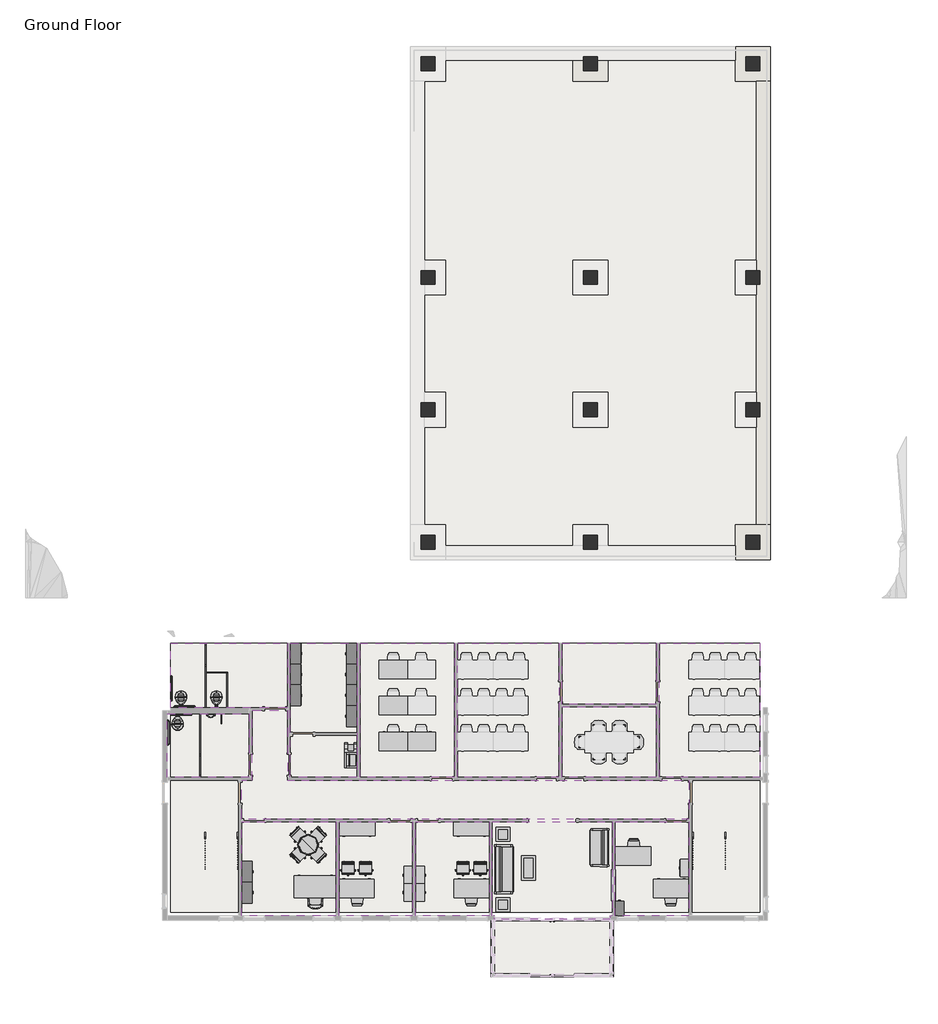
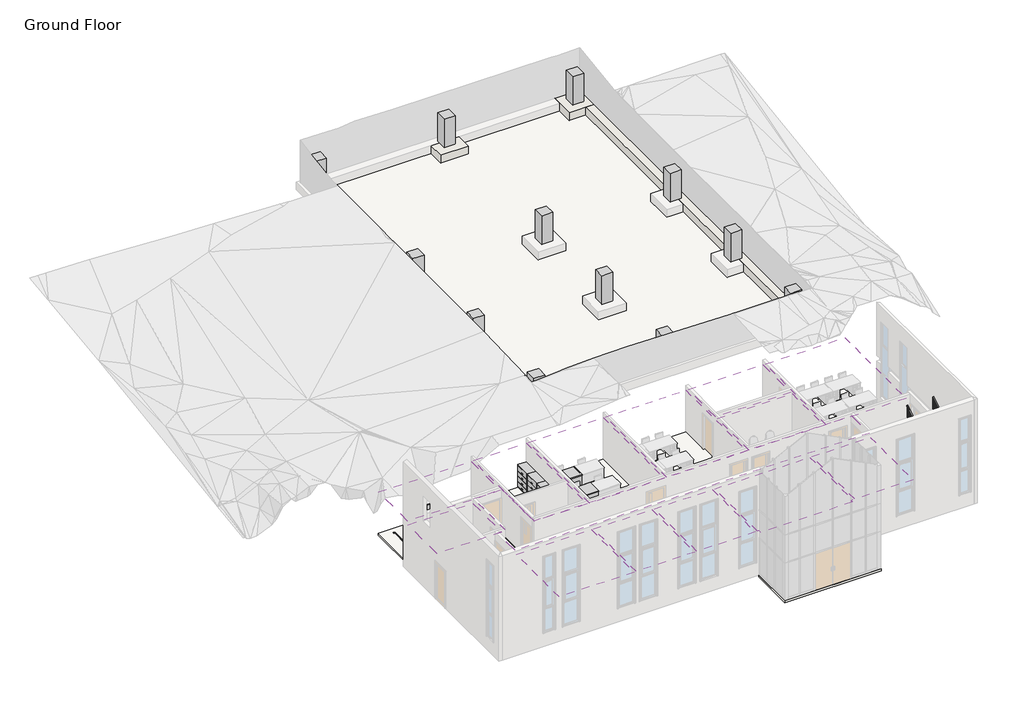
# One storey, part 4 of 5: 45 furniture elements, 16 coverings, 12 columns, 7 proxies, 4 flow terminals, 4 railings, 4 walls, 3 slabs.
"""IFC4 building model written with IfcOpenShell, lengths in millimetres."""

from ifc_helpers import new_model, si_unit, frame, origin, place, context, project, spatial, polyline, outline, extrude, faceted_brep, transform, mapped, element, save
from components import copier_floor_copier_floor_a40bf9c1, grab_bar_3d_grab_bar_3d_00f4341b, grab_bar_3d_grab_bar_3d_a3ed3e83, proxy_7c43ef90, toilet_stall_accessible_side2_3d_80249481, proxy_be33b337, urinal_screen_3d_0714b669, concrete_square_column_24_x_24_c4942f5a, flow_terminal_35d0ae41, flow_terminal_6a37c47e, urinal_wall_3d_urinal_wall_3d_7ec34c28, furniture_4ebe9c9a, furniture_5292397e, furniture_e55d9147, furniture_7033c86c, furniture_d92d6fc3, chair_desk_chair_desk_ccc35c8f, chair_desk_chair_desk_1723cfae, chair_executive_chair_executive_8d69e98c, chair_task_chair_task_b7f3823b, chair_task_chair_task_a9f69f28, furniture_894c625b, furniture_2f1724fb, desk_8768a1f0, furniture_da8d8c81, furniture_072f6425, furniture_2fc54265, furniture_7c795298, furniture_fb1f61f5, furniture_b5c51a22, furniture_feca7e9b, furniture_c80d6d9c, handrail_rectangular_0411ff3c, handrail_rectangular_9e17ef01, handrail_rectangular_dbc5561f, handrail_rectangular_fff20364

model = new_model("IFC4")

# Units and contexts
model_context = context("Model", 3, world=origin())
ifc_project = project(units=[si_unit("LENGTHUNIT", "METRE", prefix="MILLI")], contexts=[model_context])

# Site, building, storey
site = spatial("IfcSite", under=ifc_project)
building = spatial("IfcBuilding", under=site)
storey = spatial("IfcBuildingStorey", under=building, Name="Ground Floor", Elevation=39624.0)

# Proxies
placement = place(None, origin())
copier_floor_copier_floor_shape = copier_floor_copier_floor_a40bf9c1(model_context)
element("IfcBuildingElementProxy", 1, Name="Copier-Floor : Copier-Floor", ObjectType="Copier-Floor : Copier-Floor", at=placement, inside=storey, context=model_context, shape_type="MappedRepresentation", body=[
    mapped(copier_floor_copier_floor_shape, transform((-17642.7731804, -9059.1816076, 39624.0), x_axis=(0.0, -1.0, 0.0), y_axis=(1.0, 0.0, 0.0), z_axis=(0.0, 0.0, 1.0))),
])
grab_bar_3d_grab_bar_3d_shape = grab_bar_3d_grab_bar_3d_00f4341b(model_context)
element("IfcBuildingElementProxy", 2, Name="Grab Bar-3D : Grab Bar-3D", ObjectType="Grab Bar-3D : Grab Bar-3D", at=placement, inside=storey, context=model_context, shape_type="MappedRepresentation", body=[
    mapped(grab_bar_3d_grab_bar_3d_shape, transform((-25642.9167336, -7007.3019844, 39624.0), x_axis=(-1.0, 0.0, 0.0), y_axis=(0.0, -1.0, 0.0), z_axis=(0.0, 0.0, 1.0))),
])
grab_bar_3d_grab_bar_3d_2_shape = grab_bar_3d_grab_bar_3d_a3ed3e83(model_context)
element("IfcBuildingElementProxy", 3, Name="Grab Bar-3D : Grab Bar-3D", ObjectType="Grab Bar-3D : Grab Bar-3D", at=placement, inside=storey, context=model_context, shape_type="MappedRepresentation", body=[
    mapped(grab_bar_3d_grab_bar_3d_2_shape, transform((-25493.6917336, -6746.9519844, 39624.0), x_axis=(-1.0, 0.0, 0.0), y_axis=(0.0, -1.0, 0.0), z_axis=(0.0, 0.0, 1.0))),
])
proxy_shape = proxy_7c43ef90(model_context)
element("IfcBuildingElementProxy", 4, Name="Toilet Stall-3D : 36\" x 60\" Clear", ObjectType="Toilet Stall-3D : 36\" x 60\" Clear", at=placement, inside=storey, context=model_context, shape_type="MappedRepresentation", body=[
    mapped(proxy_shape, transform((-23082.1885798, -6877.1269844, 39624.0), x_axis=(-1.0, 0.0, 0.0), y_axis=(0.0, -1.0, 0.0), z_axis=(0.0, 0.0, 1.0))),
])
toilet_stall_accessible_side2_3d_shape = toilet_stall_accessible_side2_3d_80249481(model_context)
element("IfcBuildingElementProxy", 5, Name="Toilet Stall-Accessible-Side2-3D : 60\" x  110\"", ObjectType="Toilet Stall-Accessible-Side2-3D : 60\" x  110\"", at=placement, inside=storey, context=model_context, shape_type="MappedRepresentation", body=[
    mapped(toilet_stall_accessible_side2_3d_shape, transform((-24874.4760798, -6877.1269844, 39624.0), x_axis=(-1.0, 0.0, 0.0), y_axis=(0.0, -1.0, 0.0), z_axis=(0.0, 0.0, 1.0))),
])
proxy_2_shape = proxy_be33b337(model_context)
element("IfcBuildingElementProxy", 6, Name="Toilet Stall-Accessible-Side2-3D : 60\" x 111\" Clear", ObjectType="Toilet Stall-Accessible-Side2-3D : 60\" x 111\" Clear", at=placement, inside=storey, context=model_context, shape_type="MappedRepresentation", body=[
    mapped(proxy_2_shape, transform((-24631.5885798, -6877.1269844, 39624.0), x_axis=(-1.0, 0.0, 0.0), y_axis=(0.0, -1.0, 0.0), z_axis=(0.0, 0.0, 1.0))),
])
urinal_screen_3d_shape = urinal_screen_3d_0714b669(model_context)
element("IfcBuildingElementProxy", 7, Name="Urinal Screen-3D : 36\" O.C.", ObjectType="Urinal Screen-3D : 36\" O.C.", at=placement, inside=storey, context=model_context, shape_type="MappedRepresentation", body=[
    mapped(urinal_screen_3d_shape, transform((-23272.7792336, -6877.1269844, 39624.0), x_axis=(-1.0, 0.0, 0.0), y_axis=(0.0, -1.0, 0.0), z_axis=(0.0, 0.0, 1.0))),
])

# Columns
element("IfcColumn", 8, ObjectType="Concrete-Square-Column : 24 x 24", at=placement, inside=storey, context=model_context, shape_type="SweptSolid", body=[
    extrude(outline(polyline([(-13911.2917336, 21726.4480156), (-13911.2917336, 21116.8480156), (-14520.8917336, 21116.8480156), (-14520.8917336, 21726.4480156), (-13911.2917336, 21726.4480156)])), frame((0.0, 0.0, 40690.8), z_axis=(0.0, 0.0, 1.0), x_axis=(1.0, 0.0, 0.0)), (0.0, 0.0, 1.0), 1676.4),
])
element("IfcColumn", 9, ObjectType="Concrete-Square-Column : 24 x 24", at=placement, inside=storey, context=model_context, shape_type="SweptSolid", body=[
    extrude(outline(polyline([(-6799.2917336, 21726.4480156), (-6799.2917336, 21116.8480156), (-7408.8917336, 21116.8480156), (-7408.8917336, 21726.4480156), (-6799.2917336, 21726.4480156)])), frame((0.0, 0.0, 40690.8), z_axis=(0.0, 0.0, 1.0), x_axis=(1.0, 0.0, 0.0)), (0.0, 0.0, 1.0), 1676.4),
])
element("IfcColumn", 10, ObjectType="Concrete-Square-Column : 24 x 24", at=placement, inside=storey, context=model_context, shape_type="SweptSolid", body=[
    extrude(outline(polyline([(312.7082664, 21726.4480156), (312.7082664, 21116.8480156), (-296.8917336, 21116.8480156), (-296.8917336, 21726.4480156), (312.7082664, 21726.4480156)])), frame((0.0, 0.0, 40690.8), z_axis=(0.0, 0.0, 1.0), x_axis=(1.0, 0.0, 0.0)), (0.0, 0.0, 1.0), 1676.4),
])
element("IfcColumn", 11, ObjectType="Concrete-Square-Column : 24 x 24", at=placement, inside=storey, context=model_context, shape_type="SweptSolid", body=[
    extrude(outline(polyline([(-13911.2917336, 12379.2480156), (-13911.2917336, 11769.6480156), (-14520.8917336, 11769.6480156), (-14520.8917336, 12379.2480156), (-13911.2917336, 12379.2480156)])), frame((0.0, 0.0, 40690.8), z_axis=(0.0, 0.0, 1.0), x_axis=(1.0, 0.0, 0.0)), (0.0, 0.0, 1.0), 1676.4),
])
element("IfcColumn", 12, ObjectType="Concrete-Square-Column : 24 x 24", at=placement, inside=storey, context=model_context, shape_type="SweptSolid", body=[
    extrude(outline(polyline([(312.7082664, 12379.2480156), (312.7082664, 11769.6480156), (-296.8917336, 11769.6480156), (-296.8917336, 12379.2480156), (312.7082664, 12379.2480156)])), frame((0.0, 0.0, 40690.8), z_axis=(0.0, 0.0, 1.0), x_axis=(1.0, 0.0, 0.0)), (0.0, 0.0, 1.0), 1676.4),
])
element("IfcColumn", 13, ObjectType="Concrete-Square-Column : 24 x 24", at=placement, inside=storey, context=model_context, shape_type="SweptSolid", body=[
    extrude(outline(polyline([(-13911.2917336, 6588.0480156), (-13911.2917336, 5978.4480156), (-14520.8917336, 5978.4480156), (-14520.8917336, 6588.0480156), (-13911.2917336, 6588.0480156)])), frame((0.0, 0.0, 40690.8), z_axis=(0.0, 0.0, 1.0), x_axis=(1.0, 0.0, 0.0)), (0.0, 0.0, 1.0), 1676.4),
])
element("IfcColumn", 14, ObjectType="Concrete-Square-Column : 24 x 24", at=placement, inside=storey, context=model_context, shape_type="SweptSolid", body=[
    extrude(outline(polyline([(312.7082664, 6588.0480156), (312.7082664, 5978.4480156), (-296.8917336, 5978.4480156), (-296.8917336, 6588.0480156), (312.7082664, 6588.0480156)])), frame((0.0, 0.0, 40690.8), z_axis=(0.0, 0.0, 1.0), x_axis=(1.0, 0.0, 0.0)), (0.0, 0.0, 1.0), 1676.4),
])
element("IfcColumn", 15, ObjectType="Concrete-Square-Column : 24 x 24", at=placement, inside=storey, context=model_context, shape_type="SweptSolid", body=[
    extrude(outline(polyline([(-13911.2917336, 796.8480156), (-13911.2917336, 187.2480156), (-14520.8917336, 187.2480156), (-14520.8917336, 796.8480156), (-13911.2917336, 796.8480156)])), frame((0.0, 0.0, 40690.8), z_axis=(0.0, 0.0, 1.0), x_axis=(1.0, 0.0, 0.0)), (0.0, 0.0, 1.0), 1676.4),
])
element("IfcColumn", 16, ObjectType="Concrete-Square-Column : 24 x 24", at=placement, inside=storey, context=model_context, shape_type="SweptSolid", body=[
    extrude(outline(polyline([(-6799.2917336, 796.8480156), (-6799.2917336, 187.2480156), (-7408.8917336, 187.2480156), (-7408.8917336, 796.8480156), (-6799.2917336, 796.8480156)])), frame((0.0, 0.0, 40690.8), z_axis=(0.0, 0.0, 1.0), x_axis=(1.0, 0.0, 0.0)), (0.0, 0.0, 1.0), 1676.4),
])
element("IfcColumn", 17, ObjectType="Concrete-Square-Column : 24 x 24", at=placement, inside=storey, context=model_context, shape_type="SweptSolid", body=[
    extrude(outline(polyline([(312.7082664, 796.8480156), (312.7082664, 187.2480156), (-296.8917336, 187.2480156), (-296.8917336, 796.8480156), (312.7082664, 796.8480156)])), frame((0.0, 0.0, 40690.8), z_axis=(0.0, 0.0, 1.0), x_axis=(1.0, 0.0, 0.0)), (0.0, 0.0, 1.0), 1676.4),
])
concrete_square_column_24_x_24_shape = concrete_square_column_24_x_24_c4942f5a(model_context)
element("IfcColumn", 18, ObjectType="Concrete-Square-Column : 24 x 24", at=placement, inside=storey, context=model_context, shape_type="MappedRepresentation", body=[
    mapped(concrete_square_column_24_x_24_shape, transform((-7104.0917336, 12074.4480156, 0.0), x_axis=(1.0, 0.0, 0.0), y_axis=(0.0, 1.0, 0.0), z_axis=(0.0, 0.0, 1.0))),
])
element("IfcColumn", 19, ObjectType="Concrete-Square-Column : 24 x 24", at=placement, inside=storey, context=model_context, shape_type="MappedRepresentation", body=[
    mapped(concrete_square_column_24_x_24_shape, transform((-7104.0917336, 6283.2480156, 0.0), x_axis=(1.0, 0.0, 0.0), y_axis=(0.0, 1.0, 0.0), z_axis=(0.0, 0.0, 1.0))),
])

# Coverings
element("IfcCovering", 20, ObjectType="2' x 2' ACT System", at=placement, inside=storey, context=model_context, shape_type="SweptSolid", body=[
    extrude(outline(polyline([(-14763.7792336, -11750.7519844), (-11534.8042336, -11750.7519844), (-11534.8042336, -15862.3769844), (-14763.7792336, -15862.3769844), (-14763.7792336, -11750.7519844)])), frame((0.0, 0.0, 42062.4), z_axis=(0.0, 0.0, 1.0), x_axis=(1.0, 0.0, 0.0)), (0.0, 0.0, 1.0), 57.15),
])
element("IfcCovering", 21, ObjectType="2' x 2' ACT System", at=placement, inside=storey, context=model_context, shape_type="SweptSolid", body=[
    extrude(outline(polyline([(-20250.1792336, -9798.1269844), (-20250.1792336, -3927.5519844), (-17326.0042336, -3927.5519844), (-17326.0042336, -9798.1269844), (-20250.1792336, -9798.1269844)])), frame((0.0, 0.0, 42062.4), z_axis=(0.0, 0.0, 1.0), x_axis=(1.0, 0.0, 0.0)), (0.0, 0.0, 1.0), 57.15),
])
element("IfcCovering", 22, ObjectType="2' x 2' ACT System", at=placement, inside=storey, context=model_context, shape_type="SweptSolid", body=[
    extrude(outline(polyline([(-17202.1792336, -9798.1269844), (-17202.1792336, -3927.5519844), (-13058.8042336, -3927.5519844), (-13058.8042336, -9798.1269844), (-17202.1792336, -9798.1269844)])), frame((0.0, 0.0, 42062.4), z_axis=(0.0, 0.0, 1.0), x_axis=(1.0, 0.0, 0.0)), (0.0, 0.0, 1.0), 57.15),
])
element("IfcCovering", 23, ObjectType="2' x 2' ACT System", at=placement, inside=storey, context=model_context, shape_type="SweptSolid", body=[
    extrude(outline(polyline([(-12934.9792336, -9798.1269844), (-12934.9792336, -3927.5519844), (-8486.8042336, -3927.5519844), (-8486.8042336, -9798.1269844), (-12934.9792336, -9798.1269844)])), frame((0.0, 0.0, 42062.4), z_axis=(0.0, 0.0, 1.0), x_axis=(1.0, 0.0, 0.0)), (0.0, 0.0, 1.0), 57.15),
])
element("IfcCovering", 24, ObjectType="2' x 2' ACT System", at=placement, inside=storey, context=model_context, shape_type="SweptSolid", body=[
    extrude(outline(polyline([(-8362.9792336, -6597.7269844), (-8362.9792336, -3927.5519844), (-4219.6042336, -3927.5519844), (-4219.6042336, -6597.7269844), (-8362.9792336, -6597.7269844)])), frame((0.0, 0.0, 42062.4), z_axis=(0.0, 0.0, 1.0), x_axis=(1.0, 0.0, 0.0)), (0.0, 0.0, 1.0), 57.15),
])
element("IfcCovering", 25, ObjectType="2' x 2' ACT System", at=placement, inside=storey, context=model_context, shape_type="SweptSolid", body=[
    extrude(outline(polyline([(-4219.6042336, -9798.1269844), (-8362.9792336, -9798.1269844), (-8362.9792336, -6721.5519844), (-4219.6042336, -6721.5519844), (-4219.6042336, -9798.1269844)])), frame((0.0, 0.0, 42062.4), z_axis=(0.0, 0.0, 1.0), x_axis=(1.0, 0.0, 0.0)), (0.0, 0.0, 1.0), 57.15),
])
element("IfcCovering", 26, ObjectType="2' x 2' ACT System", at=placement, inside=storey, context=model_context, shape_type="SweptSolid", body=[
    extrude(outline(polyline([(-4095.7792336, -9798.1269844), (-4095.7792336, -3927.5519844), (312.7082664, -3927.5519844), (312.7082664, -9798.1269844), (-4095.7792336, -9798.1269844)])), frame((0.0, 0.0, 42062.4), z_axis=(0.0, 0.0, 1.0), x_axis=(1.0, 0.0, 0.0)), (0.0, 0.0, 1.0), 57.15),
])
element("IfcCovering", 27, ObjectType="2' x 2' ACT System", at=placement, inside=storey, context=model_context, shape_type="SweptSolid", body=[
    extrude(outline(polyline([(-2797.2042336, -11750.7519844), (-2797.2042336, -15862.3769844), (-6026.1792336, -15862.3769844), (-6026.1792336, -11750.7519844), (-2797.2042336, -11750.7519844)])), frame((0.0, 0.0, 42062.4), z_axis=(0.0, 0.0, 1.0), x_axis=(1.0, 0.0, 0.0)), (0.0, 0.0, 1.0), 57.15),
])
element("IfcCovering", 28, ObjectType="2' x 2' ACT System", at=placement, inside=storey, context=model_context, shape_type="SweptSolid", body=[
    extrude(outline(polyline([(-18116.5792336, -11750.7519844), (-14887.6042336, -11750.7519844), (-14887.6042336, -15862.3769844), (-18116.5792336, -15862.3769844), (-18116.5792336, -11750.7519844)])), frame((0.0, 0.0, 42062.4), z_axis=(0.0, 0.0, 1.0), x_axis=(1.0, 0.0, 0.0)), (0.0, 0.0, 1.0), 57.15),
])
element("IfcCovering", 29, ObjectType="2' x 2' ACT System", at=placement, inside=storey, context=model_context, shape_type="SweptSolid", body=[
    extrude(outline(polyline([(-22383.7792336, -15862.3769844), (-22383.7792336, -11750.7519844), (-18240.4042336, -11750.7519844), (-18240.4042336, -15862.3769844), (-22383.7792336, -15862.3769844)])), frame((0.0, 0.0, 42062.4), z_axis=(0.0, 0.0, 1.0), x_axis=(1.0, 0.0, 0.0)), (0.0, 0.0, 1.0), 57.15),
])
element("IfcCovering", 30, ObjectType="GWB on Mtl. Stud", at=placement, inside=storey, context=model_context, shape_type="SweptSolid", body=[
    extrude(outline(polyline([(-25493.6917336, -3927.5519844), (-20374.0042336, -3927.5519844), (-20374.0042336, -6746.9519844), (-21988.4917336, -6746.9519844), (-25493.6917336, -6746.9519844), (-25493.6917336, -3927.5519844)])), frame((0.0, 0.0, 42062.4), z_axis=(0.0, 0.0, 1.0), x_axis=(1.0, 0.0, 0.0)), (0.0, 0.0, 1.0), 107.95),
])
element("IfcCovering", 31, ObjectType="GWB on Mtl. Stud", at=placement, inside=storey, context=model_context, shape_type="SweptSolid", body=[
    extrude(outline(polyline([(-22050.4042336, -9798.1269844), (-25642.9167336, -9798.1269844), (-25642.9167336, -7007.3019844), (-22050.4042336, -7007.3019844), (-22050.4042336, -9798.1269844)])), frame((0.0, 0.0, 42062.4), z_axis=(0.0, 0.0, 1.0), x_axis=(1.0, 0.0, 0.0)), (0.0, 0.0, 1.0), 107.95),
])
element("IfcCovering", 32, ObjectType="GWB on Mtl. Stud", at=placement, inside=storey, context=model_context, shape_type="SweptSolid", body=[
    extrude(outline(polyline([(-22383.7792336, -9921.9519844), (-21926.5792336, -9921.9519844), (-21926.5792336, -6870.7769844), (-20374.0042336, -6870.7769844), (-20374.0042336, -9921.9519844), (-2797.2042336, -9921.9519844), (-2797.2042336, -11626.9269844), (-22383.7792336, -11626.9269844), (-22383.7792336, -9921.9519844)])), frame((0.0, 0.0, 42214.8), z_axis=(0.0, 0.0, 1.0), x_axis=(1.0, 0.0, 0.0)), (0.0, 0.0, 1.0), 107.95),
])
element("IfcCovering", 33, ObjectType="GWB on Mtl. Stud", at=placement, inside=storey, context=model_context, shape_type="SweptSolid", body=[
    extrude(outline(polyline([(-25493.6917336, -3927.5519844), (-20374.0042336, -3927.5519844), (-20374.0042336, -6746.9519844), (-21988.4917336, -6746.9519844), (-25493.6917336, -6746.9519844), (-25493.6917336, -3927.5519844)])), frame((0.0, 0.0, 42062.4), z_axis=(0.0, 0.0, 1.0), x_axis=(1.0, 0.0, 0.0)), (0.0, 0.0, 1.0), 107.95),
])
element("IfcCovering", 34, ObjectType="GWB on Mtl. Stud", at=placement, inside=storey, context=model_context, shape_type="SweptSolid", body=[
    extrude(outline(polyline([(-22050.4042336, -9798.1269844), (-25642.9167336, -9798.1269844), (-25642.9167336, -7007.3019844), (-22050.4042336, -7007.3019844), (-22050.4042336, -9798.1269844)])), frame((0.0, 0.0, 42062.4), z_axis=(0.0, 0.0, 1.0), x_axis=(1.0, 0.0, 0.0)), (0.0, 0.0, 1.0), 107.95),
])
element("IfcCovering", 35, ObjectType="GWB on Mtl. Stud", at=placement, inside=storey, context=model_context, shape_type="SweptSolid", body=[
    extrude(outline(polyline([(-6150.0042336, -11750.7519844), (-6150.0042336, -15862.3769844), (-6245.2542336, -15862.3769844), (-6245.2542336, -16017.9519844), (-11315.7292336, -16017.9519844), (-11315.7292336, -15862.3769844), (-11410.9792336, -15862.3769844), (-11410.9792336, -11750.7519844), (-6150.0042336, -11750.7519844)])), frame((0.0, 0.0, 42062.4), z_axis=(0.0, 0.0, 1.0), x_axis=(1.0, 0.0, 0.0)), (0.0, 0.0, 1.0), 107.95),
])

# Flow terminals
flow_terminal_shape = flow_terminal_35d0ae41(model_context)
element("IfcFlowTerminal", 36, ObjectType="Toilet-Commercial-Wall-3D : 15\" Seat Height", at=placement, inside=storey, context=model_context, shape_type="MappedRepresentation", body=[
    mapped(flow_terminal_shape, transform((-23891.9948874, -6877.1269844, 39624.0), x_axis=(1.0, 0.0, 0.0), y_axis=(0.0, 1.0, 0.0), z_axis=(0.0, 0.0, 1.0))),
])
element("IfcFlowTerminal", 37, ObjectType="Toilet-Commercial-Wall-3D : 15\" Seat Height", at=placement, inside=storey, context=model_context, shape_type="MappedRepresentation", body=[
    mapped(flow_terminal_shape, transform((-24780.8135798, -6877.1269844, 39624.0), x_axis=(-1.0, 0.0, 0.0), y_axis=(0.0, -1.0, 0.0), z_axis=(0.0, 0.0, 1.0))),
])
flow_terminal_2_shape = flow_terminal_6a37c47e(model_context)
element("IfcFlowTerminal", 38, ObjectType="Toilet-Commercial-Wall-3D : 19\" Seat Height", at=placement, inside=storey, context=model_context, shape_type="MappedRepresentation", body=[
    mapped(flow_terminal_2_shape, transform((-25441.3948874, -6877.1269844, 39624.0), x_axis=(1.0, 0.0, 0.0), y_axis=(0.0, 1.0, 0.0), z_axis=(0.0, 0.0, 1.0))),
])
urinal_wall_3d_urinal_wall_3d_shape = urinal_wall_3d_urinal_wall_3d_7ec34c28(model_context)
element("IfcFlowTerminal", 39, ObjectType="Urinal-Wall-3D : Urinal-Wall-3D", at=placement, inside=storey, context=model_context, shape_type="MappedRepresentation", body=[
    mapped(urinal_wall_3d_urinal_wall_3d_shape, transform((-23839.0538334, -6877.1269844, 39624.0), x_axis=(-1.0, 0.0, 0.0), y_axis=(0.0, -1.0, 0.0), z_axis=(0.0, 0.0, 1.0))),
])

# Furniture
furniture_shape = furniture_4ebe9c9a(model_context)
element("IfcFurniture", 40, ObjectType="Cabinet-File 3 Drawer : 30\" x 15\" Lat.", at=placement, inside=storey, context=model_context, shape_type="MappedRepresentation", body=[
    mapped(furniture_shape, transform((-14935.9699334, -14971.0984315, 39624.0), x_axis=(0.0, -1.0, 0.0), y_axis=(1.0, 0.0, 0.0), z_axis=(0.0, 0.0, 1.0))),
])
element("IfcFurniture", 41, ObjectType="Cabinet-File 3 Drawer : 30\" x 15\" Lat.", at=placement, inside=storey, context=model_context, shape_type="MappedRepresentation", body=[
    mapped(furniture_shape, transform((-14935.9699334, -14209.0984315, 39624.0), x_axis=(0.0, -1.0, 0.0), y_axis=(1.0, 0.0, 0.0), z_axis=(0.0, 0.0, 1.0))),
])
element("IfcFurniture", 42, ObjectType="Cabinet-File 3 Drawer : 30\" x 15\" Lat.", at=placement, inside=storey, context=model_context, shape_type="MappedRepresentation", body=[
    mapped(furniture_shape, transform((-2845.5699334, -13899.5359315, 39624.0), x_axis=(0.0, -1.0, 0.0), y_axis=(1.0, 0.0, 0.0), z_axis=(0.0, 0.0, 1.0))),
])
furniture_2_shape = furniture_5292397e(model_context)
element("IfcFurniture", 43, ObjectType="Cabinet-File 3 Drawer : 30\" x 15\" Lat.", at=placement, inside=storey, context=model_context, shape_type="MappedRepresentation", body=[
    mapped(furniture_2_shape, transform((-14715.4135337, -14971.0984315, 39624.0), x_axis=(0.0, -1.0, 0.0), y_axis=(1.0, 0.0, 0.0), z_axis=(0.0, 0.0, 1.0))),
])
element("IfcFurniture", 44, ObjectType="Cabinet-File 3 Drawer : 30\" x 15\" Lat.", at=placement, inside=storey, context=model_context, shape_type="MappedRepresentation", body=[
    mapped(furniture_2_shape, transform((-14715.4135337, -14209.0984315, 39624.0), x_axis=(0.0, -1.0, 0.0), y_axis=(1.0, 0.0, 0.0), z_axis=(0.0, 0.0, 1.0))),
])
furniture_3_shape = furniture_e55d9147(model_context)
element("IfcFurniture", 45, ObjectType="Cabinet-File 4 Drawer : 15\" x 25\"", at=placement, inside=storey, context=model_context, shape_type="MappedRepresentation", body=[
    mapped(furniture_3_shape, transform((-5963.5756806, -15687.0112845, 39624.0), x_axis=(-1.0, 0.0, 0.0), y_axis=(0.0, -1.0, 0.0), z_axis=(0.0, 0.0, 1.0))),
])
furniture_4_shape = furniture_7033c86c(model_context)
element("IfcFurniture", 46, ObjectType="Cabinet-File 4 Drawer : 36\" x 18\" Lat.", at=placement, inside=storey, context=model_context, shape_type="MappedRepresentation", body=[
    mapped(furniture_4_shape, transform((-22297.3135337, -14715.3055374, 39624.0), x_axis=(0.0, 1.0, 0.0), y_axis=(-1.0, 0.0, 0.0), z_axis=(0.0, 0.0, 1.0))),
])
element("IfcFurniture", 47, ObjectType="Cabinet-File 4 Drawer : 36\" x 18\" Lat.", at=placement, inside=storey, context=model_context, shape_type="MappedRepresentation", body=[
    mapped(furniture_4_shape, transform((-22297.3135337, -13800.9055374, 39624.0), x_axis=(0.0, 1.0, 0.0), y_axis=(-1.0, 0.0, 0.0), z_axis=(0.0, 0.0, 1.0))),
])
element("IfcFurniture", 48, ObjectType="Cabinet-File 4 Drawer : 36\" x 18\" Lat.", at=placement, inside=storey, context=model_context, shape_type="MappedRepresentation", body=[
    mapped(furniture_4_shape, transform((-20163.7135337, -5171.2555374, 39624.0), x_axis=(0.0, 1.0, 0.0), y_axis=(-1.0, 0.0, 0.0), z_axis=(0.0, 0.0, 1.0))),
])
element("IfcFurniture", 49, ObjectType="Cabinet-File 4 Drawer : 36\" x 18\" Lat.", at=placement, inside=storey, context=model_context, shape_type="MappedRepresentation", body=[
    mapped(furniture_4_shape, transform((-20163.7135337, -4256.8555374, 39624.0), x_axis=(0.0, 1.0, 0.0), y_axis=(-1.0, 0.0, 0.0), z_axis=(0.0, 0.0, 1.0))),
])
element("IfcFurniture", 50, ObjectType="Cabinet-File 4 Drawer : 36\" x 18\" Lat.", at=placement, inside=storey, context=model_context, shape_type="MappedRepresentation", body=[
    mapped(furniture_4_shape, transform((-20163.7135337, -6085.6555374, 39624.0), x_axis=(0.0, 1.0, 0.0), y_axis=(-1.0, 0.0, 0.0), z_axis=(0.0, 0.0, 1.0))),
])
furniture_5_shape = furniture_d92d6fc3(model_context)
element("IfcFurniture", 51, ObjectType="Cabinet-File 4 Drawer : 36\" x 18\" Lat.", at=placement, inside=storey, context=model_context, shape_type="MappedRepresentation", body=[
    mapped(furniture_5_shape, transform((-17412.4699334, -5171.2555374, 39624.0), x_axis=(0.0, 1.0, 0.0), y_axis=(-1.0, 0.0, 0.0), z_axis=(0.0, 0.0, 1.0))),
])
element("IfcFurniture", 52, ObjectType="Cabinet-File 4 Drawer : 36\" x 18\" Lat.", at=placement, inside=storey, context=model_context, shape_type="MappedRepresentation", body=[
    mapped(furniture_5_shape, transform((-17412.4699334, -4256.8555374, 39624.0), x_axis=(0.0, 1.0, 0.0), y_axis=(-1.0, 0.0, 0.0), z_axis=(0.0, 0.0, 1.0))),
])
element("IfcFurniture", 53, ObjectType="Cabinet-File 4 Drawer : 36\" x 18\" Lat.", at=placement, inside=storey, context=model_context, shape_type="MappedRepresentation", body=[
    mapped(furniture_5_shape, transform((-17412.4699334, -7000.0555374, 39624.0), x_axis=(0.0, 1.0, 0.0), y_axis=(-1.0, 0.0, 0.0), z_axis=(0.0, 0.0, 1.0))),
])
element("IfcFurniture", 54, ObjectType="Cabinet-File 4 Drawer : 36\" x 18\" Lat.", at=placement, inside=storey, context=model_context, shape_type="MappedRepresentation", body=[
    mapped(furniture_5_shape, transform((-17412.4699334, -6085.6555374, 39624.0), x_axis=(0.0, 1.0, 0.0), y_axis=(-1.0, 0.0, 0.0), z_axis=(0.0, 0.0, 1.0))),
])
chair_desk_chair_desk_shape = chair_desk_chair_desk_ccc35c8f(model_context)
element("IfcFurniture", 55, ObjectType="Chair-Desk : Chair-Desk", at=placement, inside=storey, context=model_context, shape_type="MappedRepresentation", body=[
    mapped(chair_desk_chair_desk_shape, transform((-17326.0042336, -15346.4394844, 39624.0), x_axis=(1.0, 0.0, 0.0), y_axis=(0.0, 1.0, 0.0), z_axis=(0.0, 0.0, 1.0))),
])
chair_desk_chair_desk_2_shape = chair_desk_chair_desk_1723cfae(model_context)
element("IfcFurniture", 56, ObjectType="Chair-Desk : Chair-Desk", at=placement, inside=storey, context=model_context, shape_type="MappedRepresentation", body=[
    mapped(chair_desk_chair_desk_2_shape, transform((-12325.3792336, -15346.4394844, 39624.0), x_axis=(-1.0, 0.0, 0.0), y_axis=(0.0, -1.0, 0.0), z_axis=(0.0, 0.0, 1.0))),
])
element("IfcFurniture", 57, ObjectType="Chair-Desk : Chair-Desk", at=placement, inside=storey, context=model_context, shape_type="MappedRepresentation", body=[
    mapped(chair_desk_chair_desk_2_shape, transform((-3587.7792336, -15346.4394844, 39624.0), x_axis=(-1.0, 0.0, 0.0), y_axis=(0.0, -1.0, 0.0), z_axis=(0.0, 0.0, 1.0))),
])
element("IfcFurniture", 58, ObjectType="Chair-Desk : Chair-Desk", at=placement, inside=storey, context=model_context, shape_type="MappedRepresentation", body=[
    mapped(chair_desk_chair_desk_2_shape, transform((-5216.5542336, -12552.0605868, 39624.0), x_axis=(1.0, 0.0, 0.0), y_axis=(0.0, 1.0, 0.0), z_axis=(0.0, 0.0, 1.0))),
])
chair_executive_chair_executive_shape = chair_executive_chair_executive_8d69e98c(model_context)
element("IfcFurniture", 59, ObjectType="Chair-Executive : Chair-Executive", at=placement, inside=storey, context=model_context, shape_type="MappedRepresentation", body=[
    mapped(chair_executive_chair_executive_shape, transform((-19295.7950532, -15212.9853861, 39624.0), x_axis=(1.0, 0.0, 0.0), y_axis=(0.0, 1.0, 0.0), z_axis=(0.0, 0.0, 1.0))),
])
chair_task_chair_task_shape = chair_task_chair_task_b7f3823b(model_context)
element("IfcFurniture", 60, ObjectType="Chair-Task : Chair-Task", at=placement, inside=storey, context=model_context, shape_type="MappedRepresentation", body=[
    mapped(chair_task_chair_task_shape, transform((-18922.9399856, -12412.9269448, 39624.0), x_axis=(-0.707106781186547, 0.7071067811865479, 0.0), y_axis=(-0.7071067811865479, -0.707106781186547, 0.0), z_axis=(0.0, 0.0, 1.0))),
])
element("IfcFurniture", 61, ObjectType="Chair-Task : Chair-Task", at=placement, inside=storey, context=model_context, shape_type="MappedRepresentation", body=[
    mapped(chair_task_chair_task_shape, transform((-19122.3311149, -13301.8250835, 39624.0), x_axis=(0.7071067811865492, 0.7071067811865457, 0.0), y_axis=(-0.7071067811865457, 0.7071067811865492, 0.0), z_axis=(0.0, 0.0, 1.0))),
])
element("IfcFurniture", 62, ObjectType="Chair-Task : Chair-Task", at=placement, inside=storey, context=model_context, shape_type="MappedRepresentation", body=[
    mapped(chair_task_chair_task_shape, transform((-20011.2292536, -13102.4339542, 39624.0), x_axis=(0.7071067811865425, -0.7071067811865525, 0.0), y_axis=(0.7071067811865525, 0.7071067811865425, 0.0), z_axis=(0.0, 0.0, 1.0))),
])
element("IfcFurniture", 63, ObjectType="Chair-Task : Chair-Task", at=placement, inside=storey, context=model_context, shape_type="MappedRepresentation", body=[
    mapped(chair_task_chair_task_shape, transform((-19811.8381242, -12213.5358155, 39624.0), x_axis=(-0.7071067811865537, -0.7071067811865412, 0.0), y_axis=(0.7071067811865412, -0.7071067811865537, 0.0), z_axis=(0.0, 0.0, 1.0))),
])
element("IfcFurniture", 64, ObjectType="Chair-Task : Chair-Task", at=placement, inside=storey, context=model_context, shape_type="MappedRepresentation", body=[
    mapped(chair_task_chair_task_shape, transform((-16818.3009139, -13752.4004511, 39624.0), x_axis=(-1.0, 0.0, 0.0), y_axis=(0.0, -1.0, 0.0), z_axis=(0.0, 0.0, 1.0))),
])
element("IfcFurniture", 65, ObjectType="Chair-Task : Chair-Task", at=placement, inside=storey, context=model_context, shape_type="MappedRepresentation", body=[
    mapped(chair_task_chair_task_shape, transform((-17580.3009139, -13752.4004511, 39624.0), x_axis=(-1.0, 0.0, 0.0), y_axis=(0.0, -1.0, 0.0), z_axis=(0.0, 0.0, 1.0))),
])
chair_task_chair_task_2_shape = chair_task_chair_task_a9f69f28(model_context)
element("IfcFurniture", 66, ObjectType="Chair-Task : Chair-Task", at=placement, inside=storey, context=model_context, shape_type="MappedRepresentation", body=[
    mapped(chair_task_chair_task_2_shape, transform((-12833.0825532, -13752.4004511, 39624.0), x_axis=(1.0, 0.0, 0.0), y_axis=(0.0, 1.0, 0.0), z_axis=(0.0, 0.0, 1.0))),
])
element("IfcFurniture", 67, ObjectType="Chair-Task : Chair-Task", at=placement, inside=storey, context=model_context, shape_type="MappedRepresentation", body=[
    mapped(chair_task_chair_task_2_shape, transform((-12071.0825532, -13752.4004511, 39624.0), x_axis=(1.0, 0.0, 0.0), y_axis=(0.0, 1.0, 0.0), z_axis=(0.0, 0.0, 1.0))),
])
furniture_6_shape = furniture_894c625b(model_context)
element("IfcFurniture", 68, ObjectType="Credenza : 60\" x 24\"", at=placement, inside=storey, context=model_context, shape_type="MappedRepresentation", body=[
    mapped(furniture_6_shape, transform((-17388.7234959, -12041.0823123, 39624.0), x_axis=(1.0, 0.0, 0.0), y_axis=(0.0, 1.0, 0.0), z_axis=(0.0, 0.0, 1.0))),
])
furniture_7_shape = furniture_2f1724fb(model_context)
element("IfcFurniture", 69, ObjectType="Credenza : 60\" x 24\"", at=placement, inside=storey, context=model_context, shape_type="MappedRepresentation", body=[
    mapped(furniture_7_shape, transform((-12262.6599713, -12041.0823123, 39624.0), x_axis=(-1.0, 0.0, 0.0), y_axis=(0.0, -1.0, 0.0), z_axis=(0.0, 0.0, 1.0))),
])
desk_shape = desk_8768a1f0(model_context)
element("IfcFurniture", 70, ObjectType="Desk : 48\" x 30\" Dispatch", at=placement, inside=storey, context=model_context, shape_type="MappedRepresentation", body=[
    mapped(desk_shape, transform((-16349.6917336, -8615.4394844, 39624.0), x_axis=(1.0, 0.0, 0.0), y_axis=(0.0, 1.0, 0.0), z_axis=(0.0, 0.0, 1.0))),
])
element("IfcFurniture", 71, ObjectType="Desk : 48\" x 30\" Dispatch", at=placement, inside=storey, context=model_context, shape_type="MappedRepresentation", body=[
    mapped(desk_shape, transform((-15130.4917336, -8615.4394844, 39624.0), x_axis=(1.0, 0.0, 0.0), y_axis=(0.0, 1.0, 0.0), z_axis=(0.0, 0.0, 1.0))),
])
element("IfcFurniture", 72, ObjectType="Desk : 48\" x 30\" Dispatch", at=placement, inside=storey, context=model_context, shape_type="MappedRepresentation", body=[
    mapped(desk_shape, transform((-16349.6917336, -7040.6394844, 39624.0), x_axis=(1.0, 0.0, 0.0), y_axis=(0.0, 1.0, 0.0), z_axis=(0.0, 0.0, 1.0))),
])
element("IfcFurniture", 73, ObjectType="Desk : 48\" x 30\" Dispatch", at=placement, inside=storey, context=model_context, shape_type="MappedRepresentation", body=[
    mapped(desk_shape, transform((-16349.6917336, -5465.8394844, 39624.0), x_axis=(1.0, 0.0, 0.0), y_axis=(0.0, 1.0, 0.0), z_axis=(0.0, 0.0, 1.0))),
])
furniture_8_shape = furniture_da8d8c81(model_context)
element("IfcFurniture", 74, ObjectType="Desk : 60\" x 30\"", at=placement, inside=storey, context=model_context, shape_type="MappedRepresentation", body=[
    mapped(furniture_8_shape, transform((-11534.8042336, -15041.6394844, 39624.0), x_axis=(-1.0, 0.0, 0.0), y_axis=(0.0, -1.0, 0.0), z_axis=(0.0, 0.0, 1.0))),
])
element("IfcFurniture", 75, ObjectType="Desk : 60\" x 30\"", at=placement, inside=storey, context=model_context, shape_type="MappedRepresentation", body=[
    mapped(furniture_8_shape, transform((-2797.2042336, -15041.6394844, 39624.0), x_axis=(-1.0, 0.0, 0.0), y_axis=(0.0, -1.0, 0.0), z_axis=(0.0, 0.0, 1.0))),
])
element("IfcFurniture", 76, ObjectType="Desk : 60\" x 30\"", at=placement, inside=storey, context=model_context, shape_type="MappedRepresentation", body=[
    mapped(furniture_8_shape, transform((-6007.1292336, -12856.8605868, 39624.0), x_axis=(1.0, 0.0, 0.0), y_axis=(0.0, 1.0, 0.0), z_axis=(0.0, 0.0, 1.0))),
])
furniture_9_shape = furniture_072f6425(model_context)
element("IfcFurniture", 77, ObjectType="Desk : 60\" x 30\"", at=placement, inside=storey, context=model_context, shape_type="MappedRepresentation", body=[
    mapped(furniture_9_shape, transform((-18116.5792336, -15041.6394844, 39624.0), x_axis=(1.0, 0.0, 0.0), y_axis=(0.0, 1.0, 0.0), z_axis=(0.0, 0.0, 1.0))),
])
furniture_10_shape = furniture_2fc54265(model_context)
element("IfcFurniture", 78, ObjectType="Desk : 72\" x 36\"", at=placement, inside=storey, context=model_context, shape_type="MappedRepresentation", body=[
    mapped(furniture_10_shape, transform((-20069.2042336, -15041.6394844, 39624.0), x_axis=(1.0, 0.0, 0.0), y_axis=(0.0, 1.0, 0.0), z_axis=(0.0, 0.0, 1.0))),
])
furniture_11_shape = furniture_7c795298(model_context)
element("IfcFurniture", 79, ObjectType="Sofa-Pensi : 65\"", at=placement, inside=storey, context=model_context, shape_type="MappedRepresentation", body=[
    mapped(furniture_11_shape, transform((-6990.6243206, -12590.0572563, 39624.0), x_axis=(0.0, -1.0, 0.0), y_axis=(1.0, 0.0, 0.0), z_axis=(0.0, 0.0, 1.0))),
])
furniture_12_shape = furniture_fb1f61f5(model_context)
element("IfcFurniture", 80, ObjectType="Sofa-Pensi : 84\"", at=placement, inside=storey, context=model_context, shape_type="MappedRepresentation", body=[
    mapped(furniture_12_shape, transform((-10613.9673132, -14101.0457344, 39624.0), x_axis=(0.0, 1.0, 0.0), y_axis=(-1.0, 0.0, 0.0), z_axis=(0.0, 0.0, 1.0))),
])
furniture_13_shape = furniture_b5c51a22(model_context)
element("IfcFurniture", 81, ObjectType="Table-Coffee : 24\" x 24\" x 24\"", at=placement, inside=storey, context=model_context, shape_type="MappedRepresentation", body=[
    mapped(furniture_13_shape, transform((-10957.7575002, -12393.6505622, 39624.0), x_axis=(1.0, 0.0, 0.0), y_axis=(0.0, 1.0, 0.0), z_axis=(0.0, 0.0, 1.0))),
])
element("IfcFurniture", 82, ObjectType="Table-Coffee : 24\" x 24\" x 24\"", at=placement, inside=storey, context=model_context, shape_type="MappedRepresentation", body=[
    mapped(furniture_13_shape, transform((-10957.7575002, -15467.0505622, 39624.0), x_axis=(1.0, 0.0, 0.0), y_axis=(0.0, 1.0, 0.0), z_axis=(0.0, 0.0, 1.0))),
])
furniture_14_shape = furniture_feca7e9b(model_context)
element("IfcFurniture", 83, ObjectType="Table-Coffee : 38\" x 28\" x 24\"", at=placement, inside=storey, context=model_context, shape_type="MappedRepresentation", body=[
    mapped(furniture_14_shape, transform((-9840.1575002, -13866.5574305, 39624.0), x_axis=(1.0, 0.0, 0.0), y_axis=(0.0, 1.0, 0.0), z_axis=(0.0, 0.0, 1.0))),
])
furniture_15_shape = furniture_c80d6d9c(model_context)
element("IfcFurniture", 84, ObjectType="Table-Round : 36\" Diameter", at=placement, inside=storey, context=model_context, shape_type="MappedRepresentation", body=[
    mapped(furniture_15_shape, transform((-19467.0846196, -12757.6804495, 39624.0), x_axis=(0.7071067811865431, -0.7071067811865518, 0.0), y_axis=(0.7071067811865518, 0.7071067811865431, 0.0), z_axis=(0.0, 0.0, 1.0))),
])

# Railings
handrail_rectangular_shape = handrail_rectangular_0411ff3c(model_context)
element("IfcRailing", 85, ObjectType="Handrail - Rectangular", at=placement, inside=storey, context=model_context, shape_type="MappedRepresentation", body=[
    mapped(handrail_rectangular_shape, transform((0.0, 0.0, 0.0), x_axis=(1.0, 0.0, 0.0), y_axis=(0.0, 1.0, 0.0), z_axis=(0.0, 0.0, 1.0))),
])
handrail_rectangular_2_shape = handrail_rectangular_9e17ef01(model_context)
element("IfcRailing", 86, ObjectType="Handrail - Rectangular", at=placement, inside=storey, context=model_context, shape_type="MappedRepresentation", body=[
    mapped(handrail_rectangular_2_shape, transform((0.0, 0.0, 0.0), x_axis=(1.0, 0.0, 0.0), y_axis=(0.0, 1.0, 0.0), z_axis=(0.0, 0.0, 1.0))),
])
handrail_rectangular_3_shape = handrail_rectangular_dbc5561f(model_context)
element("IfcRailing", 87, ObjectType="Handrail - Rectangular", at=placement, inside=storey, context=model_context, shape_type="MappedRepresentation", body=[
    mapped(handrail_rectangular_3_shape, transform((0.0, 0.0, 0.0), x_axis=(1.0, 0.0, 0.0), y_axis=(0.0, 1.0, 0.0), z_axis=(0.0, 0.0, 1.0))),
])
handrail_rectangular_4_shape = handrail_rectangular_fff20364(model_context)
element("IfcRailing", 88, ObjectType="Handrail - Rectangular", at=placement, inside=storey, context=model_context, shape_type="MappedRepresentation", body=[
    mapped(handrail_rectangular_4_shape, transform((0.0, 0.0, 0.0), x_axis=(1.0, 0.0, 0.0), y_axis=(0.0, 1.0, 0.0), z_axis=(0.0, 0.0, 1.0))),
])

# Slabs
element("IfcSlab", 89, ObjectType="LW Concrete on Metal Deck", at=placement, inside=storey, context=model_context, shape_type="SweptSolid", body=[
    extrude(outline(polyline([(-25493.6917336, -6877.1269844), (-25493.6917336, -3927.5519844), (312.7082664, -3927.5519844), (312.7082664, -15713.1519844), (-25493.6917336, -15713.1519844), (-25493.6917336, -6877.1269844)])), frame((0.0, 0.0, 39519.225), z_axis=(0.0, 0.0, 1.0), x_axis=(1.0, 0.0, 0.0)), (0.0, 0.0, 1.0), 104.775),
])
element("IfcSlab", 90, ObjectType="LW Concrete on Metal Deck", at=placement, inside=storey, context=model_context, shape_type="SweptSolid", body=[
    extrude(outline(polyline([(-11455.4292336, -16049.7019844), (-6105.5542336, -16049.7019844), (-6105.5542336, -18532.5519844), (-11455.4292336, -18532.5519844), (-11455.4292336, -16049.7019844)])), frame((0.0, 0.0, 39519.225), z_axis=(0.0, 0.0, 1.0), x_axis=(1.0, 0.0, 0.0)), (0.0, 0.0, 1.0), 104.775),
])
element("IfcSlab", 91, ObjectType="Pad 1", at=placement, inside=storey, context=model_context, shape_type="SweptSolid", body=[
    extrude(outline(polyline([(617.5082664, 22031.2480156), (617.5082664, -117.5519844), (-14825.6917336, -117.5519844), (-14825.6917336, 22031.2480156), (617.5082664, 22031.2480156)])), frame((0.0, 0.0, 40208.2), z_axis=(0.0, 0.0, 1.0), x_axis=(1.0, 0.0, 0.0)), (0.0, 0.0, 1.0), 25.4),
])

# Walls
element("IfcWall", 92, ObjectType="Footing", at=placement, inside=storey, context=model_context, shape_type="Brep", body=[
    faceted_brep([(160.3082664, 20659.6480156, 40233.6), (160.3082664, 12836.4480156, 40233.6), (160.3082664, 11312.4480156, 40233.6), (160.3082664, 7045.2480156, 40233.6), (160.3082664, 5521.2480156, 40233.6), (160.3082664, 1254.0480156, 40233.6), (160.3082664, 1254.0480156, 40690.8), (160.3082664, 5521.2480156, 40690.8), (160.3082664, 7045.2480156, 40690.8), (160.3082664, 11312.4480156, 40690.8), (160.3082664, 12836.4480156, 40690.8), (160.3082664, 20659.6480156, 40690.8), (769.9082664, 20659.6480156, 40233.6), (769.9082664, 20659.6480156, 40690.8), (769.9082664, 1254.0480156, 40690.8), (769.9082664, 1254.0480156, 40233.6)], [[[0, 1, 2, 3, 4, 5, 6, 7, 8, 9, 10, 11]], [[12, 13, 14, 15]], [[5, 4, 3, 2, 1, 0, 12, 15]], [[6, 5, 15, 14]], [[11, 10, 9, 8, 7, 6, 14, 13]], [[0, 11, 13, 12]]]),
])
element("IfcWall", 93, ObjectType="Footing 2", at=placement, inside=storey, context=model_context, shape_type="Brep", body=[
    faceted_brep([(-754.0917336, 22183.6480156, 40233.6), (-754.0917336, 21574.0480156, 40233.6), (-754.0917336, 20659.6480156, 40233.6), (-754.0917336, 20659.6480156, 40690.8), (-754.0917336, 21574.0480156, 40690.8), (-754.0917336, 22183.6480156, 40690.8), (769.9082664, 22183.6480156, 40233.6), (769.9082664, 22183.6480156, 40690.8), (769.9082664, 20659.6480156, 40690.8), (769.9082664, 20659.6480156, 40233.6), (160.3082664, 20659.6480156, 40233.6), (160.3082664, 20659.6480156, 40690.8)], [[[0, 1, 2, 3, 4, 5]], [[6, 7, 8, 9]], [[2, 1, 0, 6, 9, 10]], [[3, 2, 10, 9, 8, 11]], [[5, 4, 3, 11, 8, 7]], [[0, 5, 7, 6]]]),
])
element("IfcWall", 94, ObjectType="Footing 2", at=placement, inside=storey, context=model_context, shape_type="Brep", body=[
    faceted_brep([(-754.0917336, 1254.0480156, 40233.6), (-754.0917336, 339.6480156, 40233.6), (-754.0917336, -269.9519844, 40233.6), (-754.0917336, -269.9519844, 40690.8), (-754.0917336, 339.6480156, 40690.8), (-754.0917336, 1254.0480156, 40690.8), (769.9082664, 1254.0480156, 40233.6), (769.9082664, 1254.0480156, 40690.8), (769.9082664, -269.9519844, 40690.8), (769.9082664, -269.9519844, 40233.6), (160.3082664, 1254.0480156, 40233.6), (160.3082664, 1254.0480156, 40690.8)], [[[0, 1, 2, 3, 4, 5]], [[6, 7, 8, 9]], [[2, 1, 0, 10, 6, 9]], [[5, 4, 3, 8, 7, 11]], [[0, 5, 11, 7, 6, 10]], [[3, 2, 9, 8]]]),
])
element("IfcWall", 95, ObjectType="Footing 2", at=placement, inside=storey, context=model_context, shape_type="SweptSolid", body=[
    extrude(outline(polyline([(-6342.0917336, 21574.0480156), (-6342.0917336, 20659.6480156), (-7866.0917336, 20659.6480156), (-7866.0917336, 21574.0480156), (-6342.0917336, 21574.0480156)])), frame((0.0, 0.0, 40233.6), z_axis=(0.0, 0.0, 1.0), x_axis=(1.0, 0.0, 0.0)), (0.0, 0.0, 1.0), 457.2),
])

save(model, "model.ifc")
